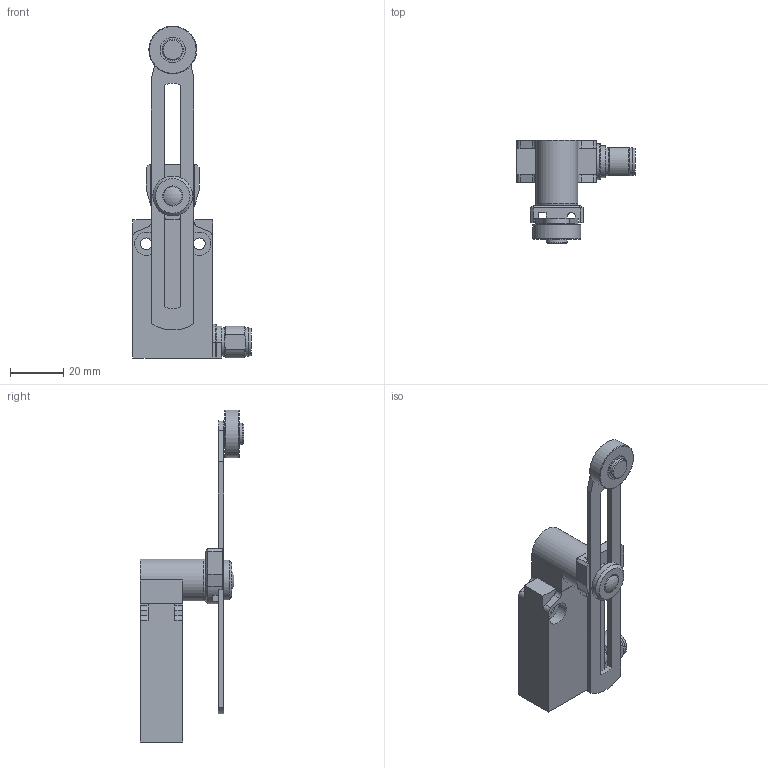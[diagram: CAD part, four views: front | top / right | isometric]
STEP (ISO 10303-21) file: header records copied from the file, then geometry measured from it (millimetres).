
FILE_DESCRIPTION(/* description */ (''),/* implementation_level */ '2;1');
FILE_NAME(/* name */ 'I49AV_side M12.stp',/* time_stamp */ '2024-11-19T15:24:56+01:00',/* author */ ('servizio.tecnico'),/* organization */ (''),/* preprocessor_version */ 'ST-DEVELOPER v19.2',/* originating_system */ 'Autodesk Inventor 2024',/* authorisation */ '');
FILE_SCHEMA (('AUTOMOTIVE_DESIGN { 1 0 10303 214 3 1 1 }'));
Length unit declared in the file: millimetre
Products named in the file (3): EP1G51-M; Product; fu 4120
Assembly tree (2 placements, depth 2):
  EP1G51-M
    Product
    fu 4120
Bounding box: 44.5 x 39.1 x 125 mm (x, y, z)
Volume: 35699.9 mm3; surface area: 14958.2 mm2
Topology: 5 solids, 5 shells, 164 faces, 384 edges, 249 vertices
Faces by surface type: plane 103, cylinder 49, cone 7, torus 4, sphere 1
Full cylindrical faces by diameter (mm): 4.4 x2, 5 x1, 6 x2, 7 x1, 7.6 x1, 8 x1, 8.7 x4, 9.5 x2, 10.3 x1, 10.6 x2, 11 x1, 15 x1, 15.8 x1, 18 x1
Entity records: 4881 total; most frequent: CARTESIAN_POINT 837, DIRECTION 829, ORIENTED_EDGE 768, EDGE_CURVE 384, AXIS2_PLACEMENT_3D 285, LINE 259, VECTOR 259, VERTEX_POINT 249
